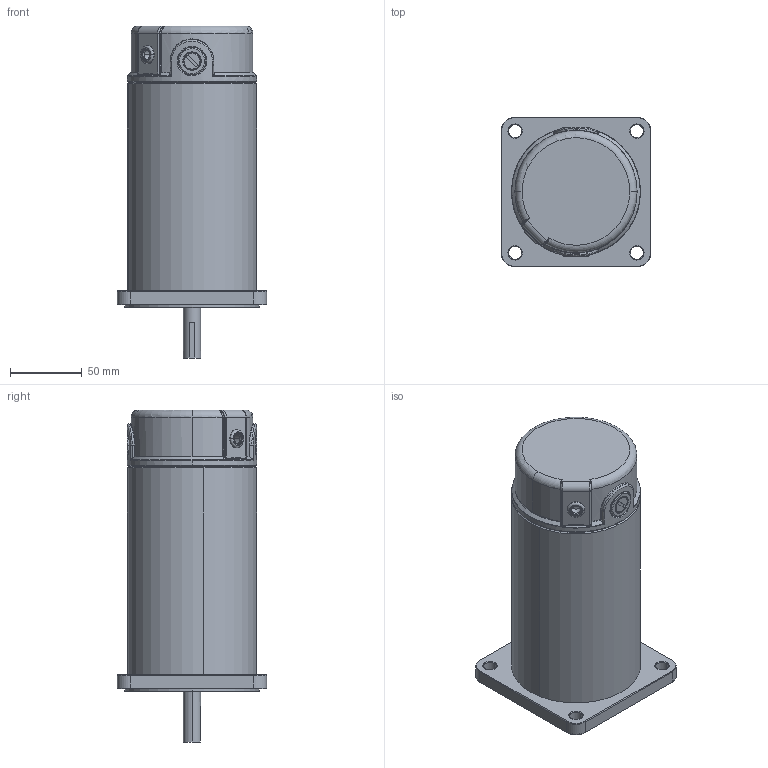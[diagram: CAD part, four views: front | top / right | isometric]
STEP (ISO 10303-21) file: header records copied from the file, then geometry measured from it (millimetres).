
FILE_DESCRIPTION (( 'STEP AP203' ), '1' );
FILE_NAME ('100嫖萇儂145儂褲.STEP', '2021-07-12T10:15:36', ( '' ), ( '' ), 'SwSTEP 2.0', 'SolidWorks 2021', '' );
FILE_SCHEMA (( 'CONFIG_CONTROL_DESIGN' ));
Length unit declared in the file: millimetre
Products named in the file (1): 100嫖萇儂145儂褲
Bounding box: 104 x 104 x 231.5 mm (x, y, z)
Surface area: 129027.1 mm2 (no closed solid volume)
Topology: 0 solids, 14 shells, 272 faces, 657 edges, 403 vertices
Faces by surface type: cylinder 104, plane 58, cone 44, bspline 39, torus 24, sphere 3
Entity records: 13262 total; most frequent: CARTESIAN_POINT 7222, ORIENTED_EDGE 1242, DIRECTION 1180, EDGE_CURVE 654, AXIS2_PLACEMENT_3D 474, VERTEX_POINT 403, EDGE_LOOP 301, ADVANCED_FACE 272
